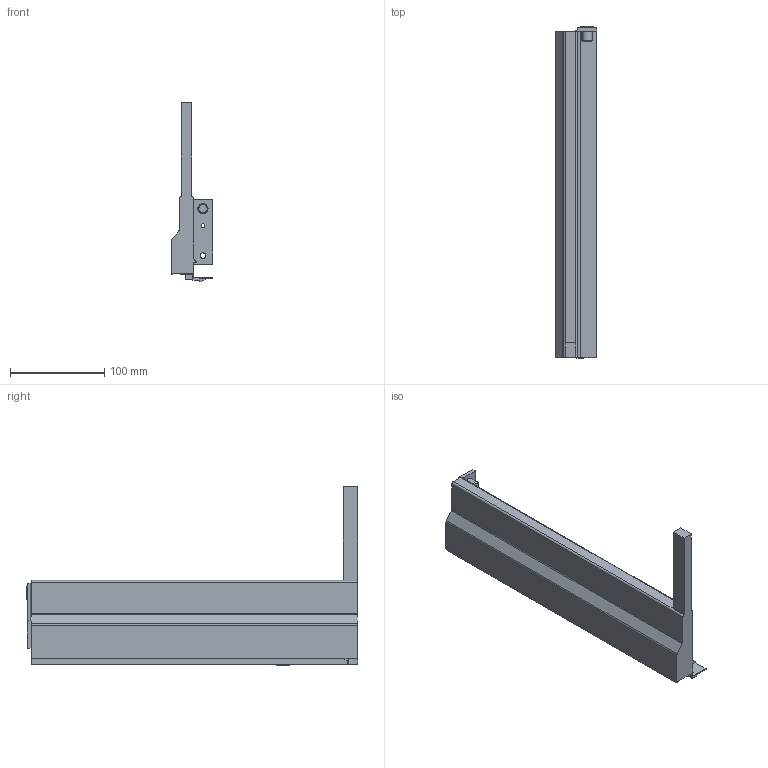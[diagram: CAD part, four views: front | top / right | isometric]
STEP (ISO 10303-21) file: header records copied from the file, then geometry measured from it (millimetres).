
FILE_DESCRIPTION (( 'STEP AP214' ), '1' );
FILE_NAME ('IMOS_NOVA-Pro_Crystal_Dekor-H90_CL_NL350_LI.step', '2010-09-28T09:47:13', ( 'Grass' ), ( '' ), 'SwSTEP 2.0', 'SolidWorks 2010', '' );
FILE_SCHEMA (( 'AUTOMOTIVE_DESIGN' ));
Length unit declared in the file: millimetre
Products named in the file (1): IMOS_NOVA-Pro_Crystal_Dekor-H90_CL_NL350_LI
Bounding box: 44.3 x 352.7 x 190.38 mm (x, y, z)
Volume: 332061.3 mm3; surface area: 128139.4 mm2
Topology: 1 solids, 1 shells, 94 faces, 256 edges, 169 vertices
Faces by surface type: plane 59, cylinder 30, cone 4, bspline 1
Entity records: 3009 total; most frequent: CARTESIAN_POINT 533, ORIENTED_EDGE 512, DIRECTION 506, EDGE_CURVE 256, LINE 190, VECTOR 190, VERTEX_POINT 169, AXIS2_PLACEMENT_3D 158
